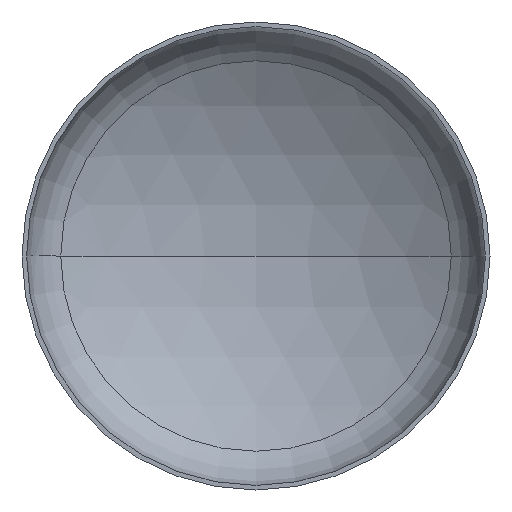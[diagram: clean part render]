
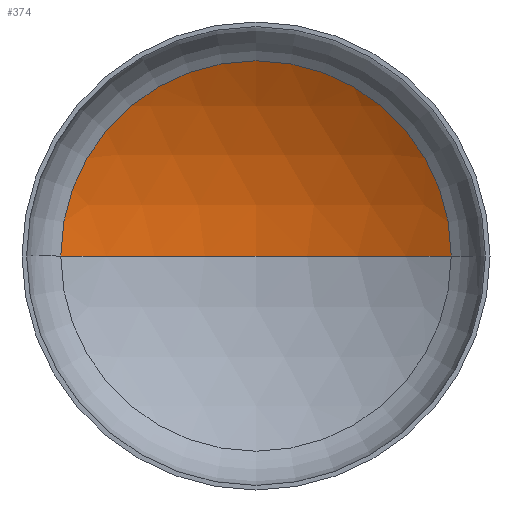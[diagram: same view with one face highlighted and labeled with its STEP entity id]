
A CAD part, front view. The second image highlights one B-rep face of the part: STEP entity #374.
In plain terms, the highlighted spherical face has radius 325 mm.
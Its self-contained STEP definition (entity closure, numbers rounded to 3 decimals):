
#1 = AXIS2_PLACEMENT_3D ( 'NONE', #373, #119, #87 ) ;
#8 = AXIS2_PLACEMENT_3D ( 'NONE', #194, #51, #82 ) ;
#13 = EDGE_LOOP ( 'NONE', ( #99, #69, #262 ) ) ;
#51 = DIRECTION ( 'NONE',  ( 0., 0., 1. ) ) ;
#58 = AXIS2_PLACEMENT_3D ( 'NONE', #270, #257, #255 ) ;
#68 = AXIS2_PLACEMENT_3D ( 'NONE', #394, #263, #196 ) ;
#69 = ORIENTED_EDGE ( 'NONE', *, *, #178, .T. ) ;
#82 = DIRECTION ( 'NONE',  ( 1., 0., 0. ) ) ;
#87 = DIRECTION ( 'NONE',  ( -1., 0., 0. ) ) ;
#99 = ORIENTED_EDGE ( 'NONE', *, *, #371, .F. ) ;
#116 = VERTEX_POINT ( 'NONE', #298 ) ;
#117 = VERTEX_POINT ( 'NONE', #236 ) ;
#119 = DIRECTION ( 'NONE',  ( 0., 0., -1. ) ) ;
#169 = CARTESIAN_POINT ( 'NONE',  ( 0., 120.623, 0. ) ) ;
#171 = EDGE_CURVE ( 'NONE', #117, #116, #345, .T. ) ;
#174 = VERTEX_POINT ( 'NONE', #169 ) ;
#178 = EDGE_CURVE ( 'NONE', #174, #117, #212, .T. ) ;
#179 = CIRCLE ( 'NONE', #8, 325. ) ;
#194 = CARTESIAN_POINT ( 'NONE',  ( 0., -204.377, 0. ) ) ;
#196 = DIRECTION ( 'NONE',  ( 1., 0., 0. ) ) ;
#212 = CIRCLE ( 'NONE', #58, 325. ) ;
#236 = CARTESIAN_POINT ( 'NONE',  ( 169.544, 72.895, 0. ) ) ;
#255 = DIRECTION ( 'NONE',  ( -1., 0., 0. ) ) ;
#257 = DIRECTION ( 'NONE',  ( 0., 0., -1. ) ) ;
#262 = ORIENTED_EDGE ( 'NONE', *, *, #171, .T. ) ;
#263 = DIRECTION ( 'NONE',  ( 0., -1., 0. ) ) ;
#270 = CARTESIAN_POINT ( 'NONE',  ( 0., -204.377, 0. ) ) ;
#298 = CARTESIAN_POINT ( 'NONE',  ( -169.544, 72.895, 0. ) ) ;
#308 = SPHERICAL_SURFACE ( 'NONE', #1, 325. ) ;
#345 = CIRCLE ( 'NONE', #68, 169.544 ) ;
#370 = FACE_OUTER_BOUND ( 'NONE', #13, .T. ) ;
#371 = EDGE_CURVE ( 'NONE', #174, #116, #179, .T. ) ;
#373 = CARTESIAN_POINT ( 'NONE',  ( 0., -204.377, 0. ) ) ;
#374 = ADVANCED_FACE ( 'NONE', ( #370 ), #308, .F. ) ;
#394 = CARTESIAN_POINT ( 'NONE',  ( 0., 72.895, 0. ) ) ;
